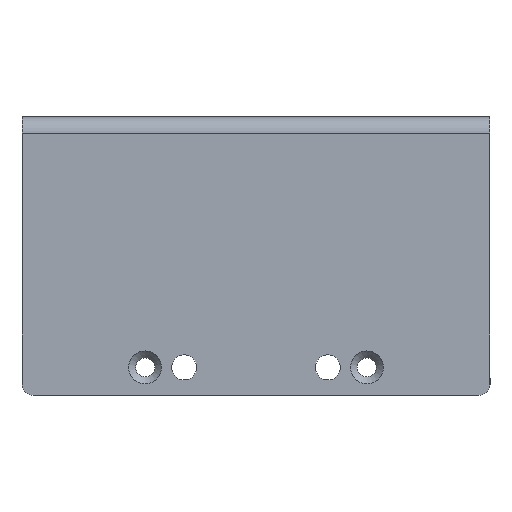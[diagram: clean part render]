
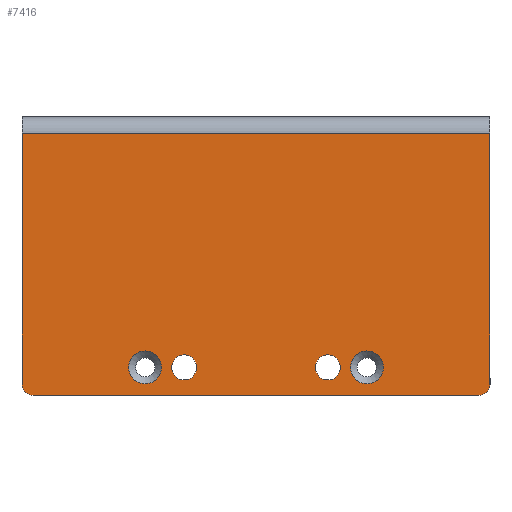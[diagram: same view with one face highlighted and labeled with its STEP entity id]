
A CAD part, left-side view. The second image highlights one B-rep face of the part: STEP entity #7416.
In plain terms, the highlighted planar face has unit normal (-1, 0, 0).
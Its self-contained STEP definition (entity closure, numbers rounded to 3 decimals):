
#710=FACE_BOUND('',#1478,.T.);
#711=FACE_BOUND('',#1479,.T.);
#712=FACE_BOUND('',#1480,.T.);
#713=FACE_BOUND('',#1481,.T.);
#821=PLANE('',#7986);
#1017=FACE_OUTER_BOUND('',#1477,.T.);
#1477=EDGE_LOOP('',(#5684,#5685,#5686,#5687,#5688,#5689));
#1478=EDGE_LOOP('',(#5690));
#1479=EDGE_LOOP('',(#5691));
#1480=EDGE_LOOP('',(#5692));
#1481=EDGE_LOOP('',(#5693));
#2051=LINE('',#11742,#2638);
#2057=LINE('',#11759,#2644);
#2059=LINE('',#11762,#2646);
#2060=LINE('',#11770,#2647);
#2638=VECTOR('',#9262,10.);
#2644=VECTOR('',#9278,10.);
#2646=VECTOR('',#9282,10.);
#2647=VECTOR('',#9297,10.);
#3233=CIRCLE('',#7960,2.95);
#3234=CIRCLE('',#7962,2.95);
#3235=CIRCLE('',#7964,2.25);
#3237=CIRCLE('',#7967,2.25);
#3239=CIRCLE('',#7970,2.);
#3242=CIRCLE('',#7976,2.);
#3903=VERTEX_POINT('',#11709);
#3904=VERTEX_POINT('',#11713);
#3905=VERTEX_POINT('',#11717);
#3907=VERTEX_POINT('',#11723);
#3909=VERTEX_POINT('',#11729);
#3910=VERTEX_POINT('',#11730);
#3914=VERTEX_POINT('',#11740);
#3918=VERTEX_POINT('',#11752);
#3919=VERTEX_POINT('',#11753);
#3920=VERTEX_POINT('',#11758);
#4573=EDGE_CURVE('',#3903,#3903,#3233,.T.);
#4575=EDGE_CURVE('',#3904,#3904,#3234,.T.);
#4577=EDGE_CURVE('',#3905,#3905,#3235,.T.);
#4580=EDGE_CURVE('',#3907,#3907,#3237,.T.);
#4583=EDGE_CURVE('',#3909,#3910,#3239,.T.);
#4589=EDGE_CURVE('',#3914,#3909,#2051,.T.);
#4594=EDGE_CURVE('',#3918,#3919,#3242,.T.);
#4597=EDGE_CURVE('',#3919,#3920,#2057,.T.);
#4599=EDGE_CURVE('',#3914,#3920,#2059,.T.);
#4604=EDGE_CURVE('',#3910,#3918,#2060,.T.);
#5684=ORIENTED_EDGE('',*,*,#4583,.F.);
#5685=ORIENTED_EDGE('',*,*,#4589,.F.);
#5686=ORIENTED_EDGE('',*,*,#4599,.T.);
#5687=ORIENTED_EDGE('',*,*,#4597,.F.);
#5688=ORIENTED_EDGE('',*,*,#4594,.F.);
#5689=ORIENTED_EDGE('',*,*,#4604,.F.);
#5690=ORIENTED_EDGE('',*,*,#4573,.T.);
#5691=ORIENTED_EDGE('',*,*,#4575,.T.);
#5692=ORIENTED_EDGE('',*,*,#4577,.T.);
#5693=ORIENTED_EDGE('',*,*,#4580,.T.);
#7416=ADVANCED_FACE('',(#1017,#710,#711,#712,#713),#821,.T.);
#7960=AXIS2_PLACEMENT_3D('',#11710,#9228,#9229);
#7962=AXIS2_PLACEMENT_3D('',#11714,#9233,#9234);
#7964=AXIS2_PLACEMENT_3D('',#11718,#9238,#9239);
#7967=AXIS2_PLACEMENT_3D('',#11724,#9245,#9246);
#7970=AXIS2_PLACEMENT_3D('',#11731,#9252,#9253);
#7976=AXIS2_PLACEMENT_3D('',#11754,#9272,#9273);
#7986=AXIS2_PLACEMENT_3D('',#11771,#9298,#9299);
#9228=DIRECTION('center_axis',(1.,0.,0.));
#9229=DIRECTION('ref_axis',(0.,0.,1.));
#9233=DIRECTION('center_axis',(1.,0.,0.));
#9234=DIRECTION('ref_axis',(0.,0.,1.));
#9238=DIRECTION('center_axis',(1.,0.,0.));
#9239=DIRECTION('ref_axis',(0.,0.,1.));
#9245=DIRECTION('center_axis',(1.,0.,0.));
#9246=DIRECTION('ref_axis',(0.,0.,1.));
#9252=DIRECTION('center_axis',(1.,0.,0.));
#9253=DIRECTION('ref_axis',(0.,-0.707,-0.707));
#9262=DIRECTION('',(0.,0.,-1.));
#9272=DIRECTION('center_axis',(1.,0.,0.));
#9273=DIRECTION('ref_axis',(0.,0.707,-0.707));
#9278=DIRECTION('',(0.,0.,1.));
#9282=DIRECTION('',(0.,1.,0.));
#9297=DIRECTION('',(0.,1.,0.));
#9298=DIRECTION('center_axis',(-1.,0.,0.));
#9299=DIRECTION('ref_axis',(0.,0.,1.));
#11709=CARTESIAN_POINT('',(-63.2,19.9,-47.95));
#11710=CARTESIAN_POINT('Origin',(-63.2,19.9,-45.));
#11713=CARTESIAN_POINT('',(-63.2,-19.9,-47.95));
#11714=CARTESIAN_POINT('Origin',(-63.2,-19.9,-45.));
#11717=CARTESIAN_POINT('',(-63.2,12.9,-47.25));
#11718=CARTESIAN_POINT('Origin',(-63.2,12.9,-45.));
#11723=CARTESIAN_POINT('',(-63.2,-12.9,-47.25));
#11724=CARTESIAN_POINT('Origin',(-63.2,-12.9,-45.));
#11729=CARTESIAN_POINT('',(-63.2,-42.,-48.));
#11730=CARTESIAN_POINT('',(-63.2,-40.,-50.));
#11731=CARTESIAN_POINT('Origin',(-63.2,-40.,-48.));
#11740=CARTESIAN_POINT('',(-63.2,-42.,-3.));
#11742=CARTESIAN_POINT('',(-63.2,-42.,-3.));
#11752=CARTESIAN_POINT('',(-63.2,40.,-50.));
#11753=CARTESIAN_POINT('',(-63.2,42.,-48.));
#11754=CARTESIAN_POINT('Origin',(-63.2,40.,-48.));
#11758=CARTESIAN_POINT('',(-63.2,42.,-3.));
#11759=CARTESIAN_POINT('',(-63.2,42.,-0.047));
#11762=CARTESIAN_POINT('',(-63.2,0.,-3.));
#11770=CARTESIAN_POINT('',(-63.2,-42.,-50.));
#11771=CARTESIAN_POINT('Origin',(-63.2,0.,
-25.023));
